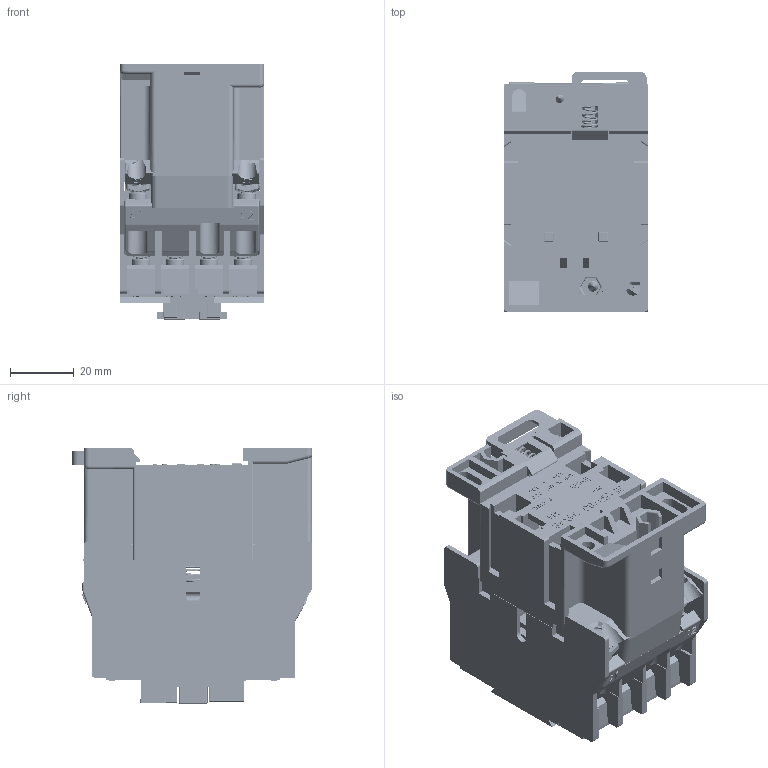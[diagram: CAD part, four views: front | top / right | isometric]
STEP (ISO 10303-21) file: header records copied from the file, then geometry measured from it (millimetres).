
FILE_DESCRIPTION((''),'2;1');
FILE_NAME('CJX2-0900_ASM','2023-07-21T17:13:40',('Administrator'),(''),'CREO PARAMETRIC BY PTC INC, 2020033','CREO PARAMETRIC BY PTC INC, 2020033','');
FILE_SCHEMA(('CONFIG_CONTROL_DESIGN'));
Products named in the file (19): CJX2-0900; CJX2-090004; CJX2-090005; CJX2-090006; CJX2S-090034; M3_5X9_50002; 7_5X2_600; M3_5X9_50001_ASM; ST3_5X160001; CJX2-091000; CJX2-092000; CJX2-09000; CJX2S-09_AF2; CJX2-0900_ASM
Assembly tree (29 placements, depth 3):
  CJX2-0900_ASM
    CJX2-0900
    CJX2-090004
    CJX2-090005
    CJX2-090006
    CJX2S-090034
    CJX2-0900
    CJX2-0900
    M3_5X9_50001_ASM  x11
      M3_5X9_50002
      7_5X2_600
    ST3_5X160001  x2
    CJX2-091000
    CJX2-092000
    CJX2-091000
    CJX2-092000
    CJX2-09000
    CJX2-0900
    CJX2S-09_AF2
Bounding box: 45.3 x 75 x 80.1 mm (x, y, z)
Volume: 151131.2 mm3; surface area: 94593.3 mm2
Topology: 38 solids, 38 shells, 5708 faces, 16213 edges, 10774 vertices
Faces by surface type: plane 4611, cylinder 721, bspline 245, torus 70, sphere 44, cone 17
Entity records: 158543 total; most frequent: CARTESIAN_POINT 38288, ORIENTED_EDGE 26172, DIRECTION 22503, EDGE_CURVE 13086, VECTOR 12115, LINE 12115, VERTEX_POINT 8647, AXIS2_PLACEMENT_3D 5194
